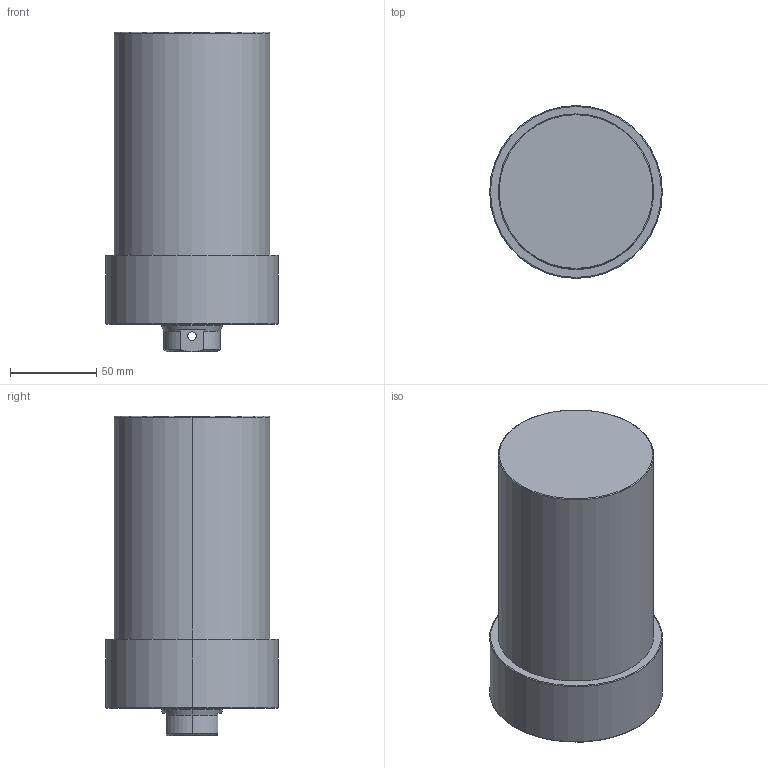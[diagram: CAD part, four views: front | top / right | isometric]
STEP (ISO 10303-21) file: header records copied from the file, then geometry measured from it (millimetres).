
FILE_DESCRIPTION (( 'STEP AP203' ), '1' );
FILE_NAME ('CLLU-090GB-085.STEP', '2020-01-13T05:48:20', ( '' ), ( '' ), 'SwSTEP 2.0', 'SolidWorks 2015', '' );
FILE_SCHEMA (( 'CONFIG_CONTROL_DESIGN' ));
Length unit declared in the file: millimetre
Products named in the file (1): CLLU-090GB-085
Bounding box: 100 x 100 x 185 mm (x, y, z)
Volume: 1128310.8 mm3; surface area: 72074 mm2
Topology: 1 solids, 1 shells, 68 faces, 155 edges, 88 vertices
Faces by surface type: cylinder 27, cone 25, plane 10, torus 6
Entity records: 2061 total; most frequent: CARTESIAN_POINT 462, DIRECTION 350, ORIENTED_EDGE 290, AXIS2_PLACEMENT_3D 148, EDGE_CURVE 145, VERTEX_POINT 88, EDGE_LOOP 81, CIRCLE 79
